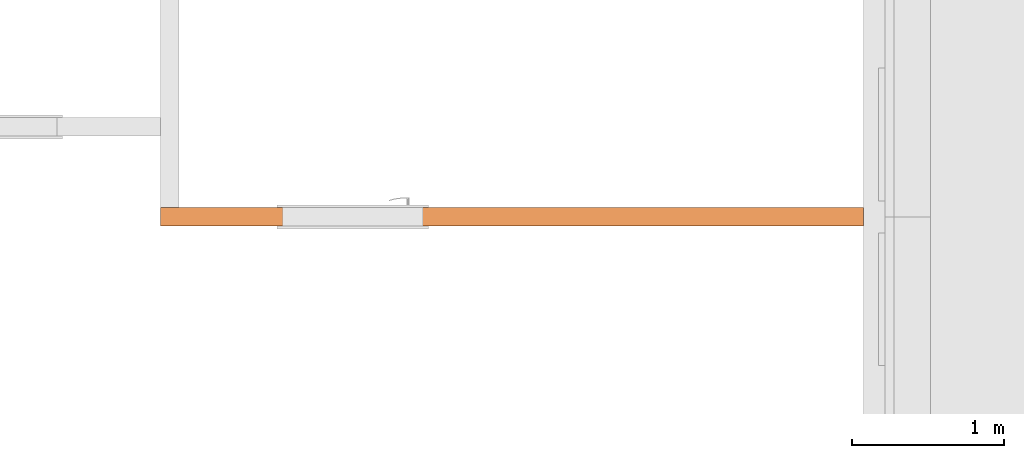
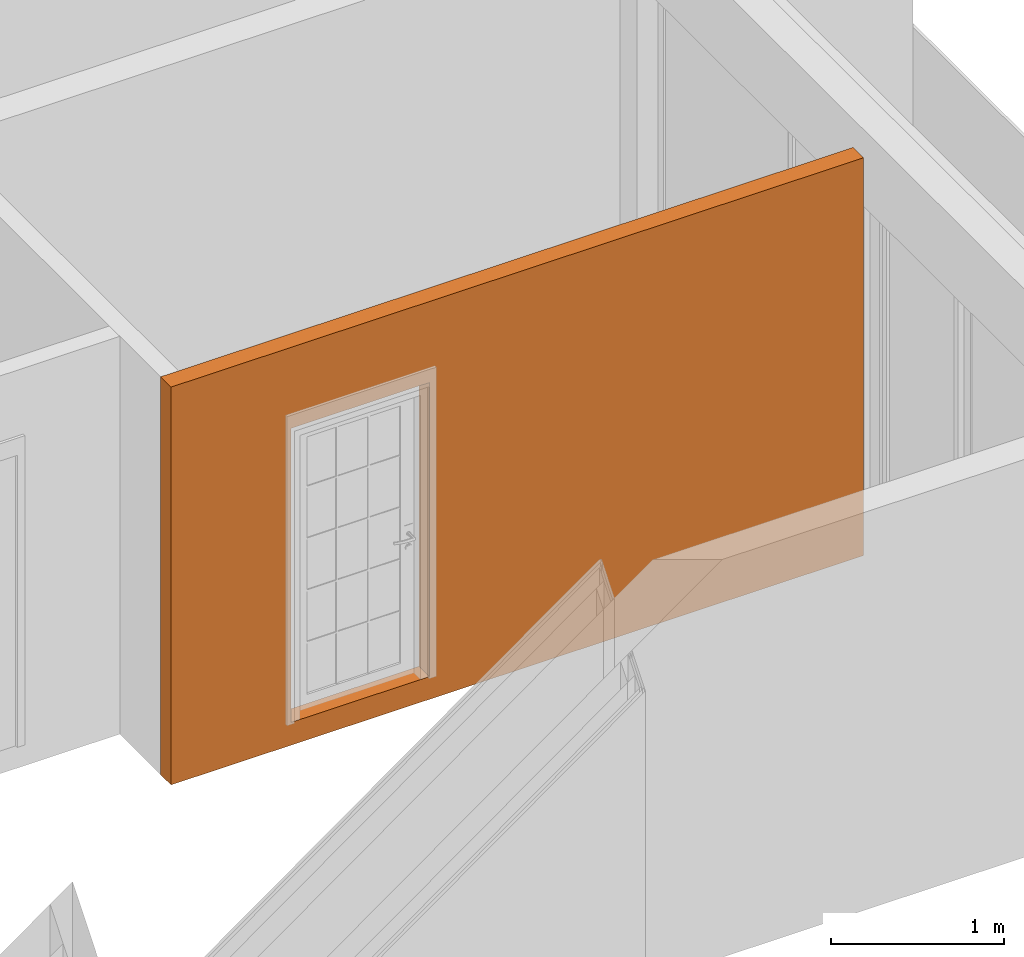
# One storey, part 44 of 66: 1 proxy, 1 opening.
"""IFC2X3 building model written with IfcOpenShell, lengths in millimetres."""

import ifcopenshell
import ifcopenshell.guid

model = None  # the IFC model being written
_history = None  # IfcOwnerHistory: only IFC2X3 demands one
_inside = {}  # id of a spatial element -> (the spatial element, [elements in it])
_under = {}  # id of a project, library or spatial element -> (it, [spatial elements below it])
_declared = {}  # id of a project -> (the project, [libraries it declares])
_typed = {}  # id of a type object -> (the type object, [elements of that type])
_made_of = {}  # id of a material, layer set ... -> (it, [elements and type objects made of it])


def new_model(schema):
    """Start an empty IFC model of exactly this schema.

    Asked for "IFC4X3", IfcOpenShell would pick the latest addendum, in which some entities
    have other attributes; the version numbers below select the first issue.
    IFC2X3 requires an IfcOwnerHistory on every rooted entity: one is made here for all.
    """
    global model, _history
    if schema == "IFC4X3":
        model = ifcopenshell.file(schema_version=(4, 3, 0, 0))
    else:
        model = ifcopenshell.file(schema=schema)
    _inside.clear()
    _under.clear()
    _declared.clear()
    _typed.clear()
    _made_of.clear()
    _history = None
    if model.schema == "IFC2X3":
        org = make("IfcOrganization", Name="unknown")
        user = make(
            "IfcPersonAndOrganization",
            ThePerson=make("IfcPerson", FamilyName="unknown"),
            TheOrganization=org,
        )
        app = make(
            "IfcApplication",
            ApplicationDeveloper=org,
            Version="unknown",
            ApplicationFullName="unknown",
            ApplicationIdentifier="unknown",
        )
        _history = make(
            "IfcOwnerHistory",
            OwningUser=user,
            OwningApplication=app,
            ChangeAction="ADDED",
            CreationDate=0,
        )
    return model


def make(cls, **values):
    """One entity of the class cls with the attributes given. An attribute that is None is left unset."""
    return model.create_entity(
        cls, **{name: value for name, value in values.items() if value is not None}
    )


def entity(cls, *values):
    """Any entity or typed value of the class cls, its attributes in the order of the schema. None: left unset."""
    e = model.create_entity(cls)
    for i, value in enumerate(values):
        if value is not None:
            e[i] = value
    return e


def rooted(cls, **values):
    """An entity with a GlobalId (a new one), such as an element, a storey or a relation."""
    return make(cls, GlobalId=ifcopenshell.guid.new(), OwnerHistory=_history, **values)


def si_unit(unit_type, name, prefix=None):
    """IfcSIUnit, for example si_unit("LENGTHUNIT", "METRE", prefix="MILLI")."""
    return make("IfcSIUnit", UnitType=unit_type, Prefix=prefix, Name=name)


def converted_unit(unit_type, name, factor, base, dimensions=None, offset=None):
    """IfcConversionBasedUnit, such as the inch: factor (a typed value) times the base unit."""
    return make(
        "IfcConversionBasedUnit"
        if offset is None
        else "IfcConversionBasedUnitWithOffset",
        ConversionOffset=offset,
        Dimensions=None
        if dimensions is None
        else entity("IfcDimensionalExponents", *dimensions),
        UnitType=unit_type,
        Name=name,
        ConversionFactor=make(
            "IfcMeasureWithUnit", ValueComponent=factor, UnitComponent=base
        ),
    )


def derived_unit(unit_type, elements):
    """IfcDerivedUnit: a product of units, each with its exponent."""
    return make(
        "IfcDerivedUnit",
        Elements=[
            make("IfcDerivedUnitElement", Unit=unit, Exponent=power)
            for unit, power in elements
        ],
        UnitType=unit_type,
    )


def money_unit(currency):
    """IfcMonetaryUnit."""
    return make("IfcMonetaryUnit", Currency=currency)


def assignment(units):
    """IfcUnitAssignment: the units of a project."""
    return None if units is None else make("IfcUnitAssignment", Units=units)


def point(xyz):
    """IfcCartesianPoint."""
    return None if xyz is None else make("IfcCartesianPoint", Coordinates=xyz)


def direction(xyz):
    """IfcDirection."""
    return None if xyz is None else make("IfcDirection", DirectionRatios=xyz)


def frame(location, z_axis=None, x_axis=None):
    """IfcAxis2Placement3D, a coordinate frame: its origin and axes. An axis left out is left unset."""
    return make(
        "IfcAxis2Placement3D",
        Location=point(location),
        Axis=direction(z_axis),
        RefDirection=direction(x_axis),
    )


def frame_2d(location, x_axis=None):
    """IfcAxis2Placement2D, a coordinate frame in the plane: its origin and x axis."""
    return make(
        "IfcAxis2Placement2D", Location=point(location), RefDirection=direction(x_axis)
    )


def origin_with_axes():
    """The frame at (0, 0, 0) with the z axis (0, 0, 1) and the x axis (1, 0, 0) written out."""
    return frame((0.0, 0.0, 0.0), z_axis=(0.0, 0.0, 1.0), x_axis=(1.0, 0.0, 0.0))


def origin_2d_with_axis():
    """The frame at (0, 0) in the plane with the x axis (1, 0) written out."""
    return frame_2d((0.0, 0.0), x_axis=(1.0, 0.0))


def place(relative_to, where):
    """IfcLocalPlacement: puts the frame where relative to a parent placement (None: the world)."""
    return make(
        "IfcLocalPlacement", PlacementRelTo=relative_to, RelativePlacement=where
    )


def context(
    kind, dimensions, precision=None, world=None, true_north=None, identifier=None
):
    """IfcGeometricRepresentationContext, for example the 3D "Model" context."""
    return make(
        "IfcGeometricRepresentationContext",
        ContextIdentifier=identifier,
        ContextType=kind,
        CoordinateSpaceDimension=dimensions,
        Precision=precision,
        WorldCoordinateSystem=world,
        TrueNorth=true_north,
    )


def subcontext(parent, identifier, kind, view, scale=None):
    """IfcGeometricRepresentationSubContext, for example "Body" below "Model"."""
    return make(
        "IfcGeometricRepresentationSubContext",
        ContextIdentifier=identifier,
        ContextType=kind,
        ParentContext=parent,
        TargetScale=scale,
        TargetView=view,
    )


def project(units=None, contexts=None):
    """IfcProject with its units and contexts."""
    return rooted(
        "IfcProject",
        Name="project",
        RepresentationContexts=contexts,
        UnitsInContext=assignment(units),
    )


def spatial(cls, under=None, at=None, **own):
    """A site, building, storey or space (cls), placed at a placement, below another one or the project."""
    s = rooted(cls, ObjectPlacement=at, **own)
    if under is not None:
        _under.setdefault(under.id(), (under, []))[1].append(s)
    return s


def profile(cls, at=None, kind="AREA", **sizes):
    """A parametric profile (cls). Its sizes go by their IFC names, for example OverallWidth=200.0."""
    return make(cls, ProfileType=kind, Position=at, **sizes)


def rectangle(**sizes):
    """IfcRectangleProfileDef."""
    return profile("IfcRectangleProfileDef", **sizes)


def extrude(swept, where, along, depth):
    """IfcExtrudedAreaSolid: the profile swept, set in the frame where, extruded along a direction by depth."""
    return make(
        "IfcExtrudedAreaSolid",
        SweptArea=swept,
        Position=where,
        ExtrudedDirection=direction(along),
        Depth=depth,
    )


def faces_of(points, faces, orient=None, outer=None):
    """IfcFace entities. A face is a list of loops; a loop is a list of indices into points, from 0.

    orient and outer hold one flag for each loop. By default every Orientation is true, the
    first loop of a face is its IfcFaceOuterBound and the others are IfcFaceBound.
    """
    made = []
    for i, loops in enumerate(faces):
        bounds = []
        for j, loop in enumerate(loops):
            is_outer = j == 0 if outer is None else outer[i][j]
            bounds.append(
                make(
                    "IfcFaceOuterBound" if is_outer else "IfcFaceBound",
                    Bound=make("IfcPolyLoop", Polygon=[points[k] for k in loop]),
                    Orientation=True if orient is None else orient[i][j],
                )
            )
        made.append(make("IfcFace", Bounds=bounds))
    return made


def faceted_brep(points, faces, orient=None, outer=None, voids=None):
    """IfcFacetedBrep: a solid bounded by flat faces; with voids (closed shells), ...WithVoids."""
    shared = [point(p) for p in points]
    hull = make("IfcClosedShell", CfsFaces=faces_of(shared, faces, orient, outer))
    if voids is None:
        return make("IfcFacetedBrep", Outer=hull)
    return make(
        "IfcFacetedBrepWithVoids",
        Outer=hull,
        Voids=[
            make(cls, CfsFaces=faces_of(shared, fs, o, b)) for cls, fs, o, b in voids
        ],
    )


def shape(context_of_items, identifier, shape_type, items):
    """IfcShapeRepresentation: the items that make up one representation, for example the "Body"."""
    return make(
        "IfcShapeRepresentation",
        ContextOfItems=context_of_items,
        RepresentationIdentifier=identifier,
        RepresentationType=shape_type,
        Items=items,
    )


def material(Name=None, Category=None):
    """IfcMaterial."""
    return make("IfcMaterial", Name=Name, Category=Category)


def made_of(thing, what):
    """Note that an element or type object is made of a material, layer set ...; save() writes the relation."""
    if what is not None:
        _made_of.setdefault(what.id(), (what, []))[1].append(thing)
    return thing


def type_object(cls, material=None, **own):
    """A type object (cls), such as IfcWallType, which elements share."""
    return made_of(rooted(cls, **own), material)


def element(
    cls,
    number,
    at=None,
    inside=None,
    cuts=None,
    type_object=None,
    material=None,
    context=None,
    identifier="Body",
    shape_type=None,
    held_by="IfcProductDefinitionShape",
    body=None,
    shapes=None,
    **own,
):
    """One element of the class cls, such as IfcWall. Its Tag is "e" and its number.

    at: its placement. inside: the storey or other place that contains it. cuts: it is an
    opening in that element (IfcRelVoidsElement). A single representation is given by context,
    identifier, shape_type and body (its items); several are given by shapes. held_by: the class
    of the entity that holds the representations. save() writes the other relations.
    """
    e = rooted(cls, Tag="e%d" % number, ObjectPlacement=at, **own)
    if body is not None:
        shapes = [shape(context, identifier, shape_type, body)]
    if shapes is not None:
        e.Representation = make(held_by, Representations=shapes)
    if inside is not None:
        _inside.setdefault(inside.id(), (inside, []))[1].append(e)
    if cuts is not None:
        rooted(
            "IfcRelVoidsElement", RelatingBuildingElement=cuts, RelatedOpeningElement=e
        )
    if type_object is not None:
        _typed.setdefault(type_object.id(), (type_object, []))[1].append(e)
    return made_of(e, material)


def aggregate(whole, parts):
    """IfcRelAggregates: a whole, such as a stair, and the parts it consists of."""
    return rooted("IfcRelAggregates", RelatingObject=whole, RelatedObjects=parts)


def save(model, path):
    """Write the relations noted so far, then the file.

    IfcRelAggregates (storeys below a building ...), IfcRelContainedInSpatialStructure (elements
    in a storey), IfcRelDefinesByType, IfcRelAssociatesMaterial and IfcRelDeclares: one each for
    every whole, place, type object, material and project.
    """
    for whole, parts in _under.values():
        aggregate(whole, parts)
    for where, things in _inside.values():
        rooted(
            "IfcRelContainedInSpatialStructure",
            RelatedElements=things,
            RelatingStructure=where,
        )
    for kind, things in _typed.values():
        rooted("IfcRelDefinesByType", RelatedObjects=things, RelatingType=kind)
    for what, things in _made_of.values():
        rooted("IfcRelAssociatesMaterial", RelatedObjects=things, RelatingMaterial=what)
    for by, libraries in _declared.values():
        rooted("IfcRelDeclares", RelatingContext=by, RelatedDefinitions=libraries)
    model.write(path)


model = new_model("IFC2X3")

# Units and contexts
model_context = context("Model", 3, precision=0.01, world=origin_with_axes(), true_north=direction((0.34421633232, 0.938890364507)))
body_context = subcontext(model_context, "Body", "Model", "MODEL_VIEW")
ifc_project = project(units=[si_unit("LENGTHUNIT", "METRE", prefix="MILLI"), si_unit("AREAUNIT", "SQUARE_METRE"), si_unit("VOLUMEUNIT", "CUBIC_METRE"), converted_unit("PLANEANGLEUNIT", "DEGREE", entity("IfcPlaneAngleMeasure", 0.0174532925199), si_unit("PLANEANGLEUNIT", "RADIAN"), dimensions=[0, 0, 0, 0, 0, 0, 0]), si_unit("SOLIDANGLEUNIT", "STERADIAN"), money_unit("USD"), converted_unit("TIMEUNIT", "Year", entity("IfcTimeMeasure", 31556926.0), si_unit("TIMEUNIT", "SECOND"), dimensions=[0, 0, 1, 0, 0, 0, 0]), si_unit("MASSUNIT", "GRAM", prefix="KILO"), si_unit("THERMODYNAMICTEMPERATUREUNIT", "DEGREE_CELSIUS"), si_unit("LUMINOUSINTENSITYUNIT", "LUMEN"), si_unit("ENERGYUNIT", "JOULE", prefix="MEGA"), derived_unit("THERMALCONDUCTANCEUNIT", [(si_unit("POWERUNIT", "WATT"), 1), (si_unit("LENGTHUNIT", "METRE"), -1), (si_unit("THERMODYNAMICTEMPERATUREUNIT", "KELVIN"), -1)]), derived_unit("SPECIFICHEATCAPACITYUNIT", [(si_unit("ENERGYUNIT", "JOULE"), 1), (si_unit("MASSUNIT", "GRAM", prefix="KILO"), -1), (si_unit("THERMODYNAMICTEMPERATUREUNIT", "KELVIN"), -1)]), derived_unit("MASSDENSITYUNIT", [(si_unit("MASSUNIT", "GRAM", prefix="KILO"), 1), (si_unit("VOLUMEUNIT", "CUBIC_METRE"), -1)])], contexts=[model_context])

# Site, building, storey
site_placement = place(None, origin_with_axes())
site = spatial("IfcSite", under=ifc_project, at=site_placement, Name="USTRONIE MORSKIE", CompositionType="ELEMENT")
building_placement = place(site_placement, origin_with_axes())
building = spatial("IfcBuilding", under=site, at=building_placement, Name="Budynek", CompositionType="ELEMENT")
storey_placement = place(building_placement, frame((0.0, 0.0, 10000.0), z_axis=(0.0, 0.0, 1.0), x_axis=(1.0, 0.0, 0.0)))
storey = spatial("IfcBuildingStorey", under=building, at=storey_placement, Name="PIĘTRO 3", CompositionType="ELEMENT", Elevation=10000.0)

# Proxy, opening
ifc_material = material(Name="Bloczki silikatowe")
building_element_proxy_type = type_object("IfcBuildingElementProxyType", Name="Bloczki silikatowe 120", PredefinedType="NOTDEFINED")
proxy_placement = place(storey_placement, frame((420917.920919, 724051.179686, -160.0), z_axis=(0.0, 0.0, 1.0), x_axis=(1.0, 0.0, 0.0)))
proxy = element("IfcBuildingElementProxy", 1, at=proxy_placement, inside=storey, type_object=building_element_proxy_type, material=ifc_material, Name="SW-04", context=body_context, shape_type="Brep", body=[
    faceted_brep([(4550.0, -59.9999999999, 2800.0), (4550.0, 59.9999999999, 2800.0), (-60.0, 59.9999999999, 2800.0), (-60.0, -59.9999999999, 2800.0), (4550.0, -59.9999999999, 0.0), (4550.0, 59.9999999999, 0.0), (-60.0, 59.9999999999, 0.0), (-60.0, -59.9999999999, 0.0)], [[[0, 1, 2, 3]], [[1, 0, 4, 5]], [[1, 5, 6, 2]], [[7, 3, 2, 6]], [[4, 0, 3, 7]], [[5, 4, 7, 6]]]),
])
opening_placement = place(proxy_placement, frame((1200.0, 0.0, 160.0), z_axis=(0.0, 0.0, 1.0), x_axis=(1.0, 0.0, 0.0)))
element("IfcOpeningElement", 2, at=opening_placement, cuts=proxy, Name="Dw.3", context=body_context, shape_type="SweptSolid", body=[
    extrude(rectangle(XDim=920.0, YDim=2070.0, at=origin_2d_with_axis()), frame((0.0, 120.0, 1035.0), z_axis=(0.0, 1.0, 0.0), x_axis=(-1.0, 0.0, 0.0)), (0.0, 0.0, -1.0), 360.0),
    extrude(rectangle(XDim=994.0, YDim=2177.0, at=origin_2d_with_axis()), frame((0.0, 60.0000000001, 1088.5), z_axis=(0.0, 1.0, 0.0), x_axis=(-1.0, 0.0, 0.0)), (0.0, 0.0, 1.0), 120.0),
    extrude(rectangle(XDim=994.0, YDim=2177.0, at=origin_2d_with_axis()), frame((0.0, -59.9999999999, 1088.5), z_axis=(0.0, -1.0, 0.0), x_axis=(-1.0, 0.0, 0.0)), (0.0, 0.0, 1.0), 120.0),
])

save(model, "model.ifc")
